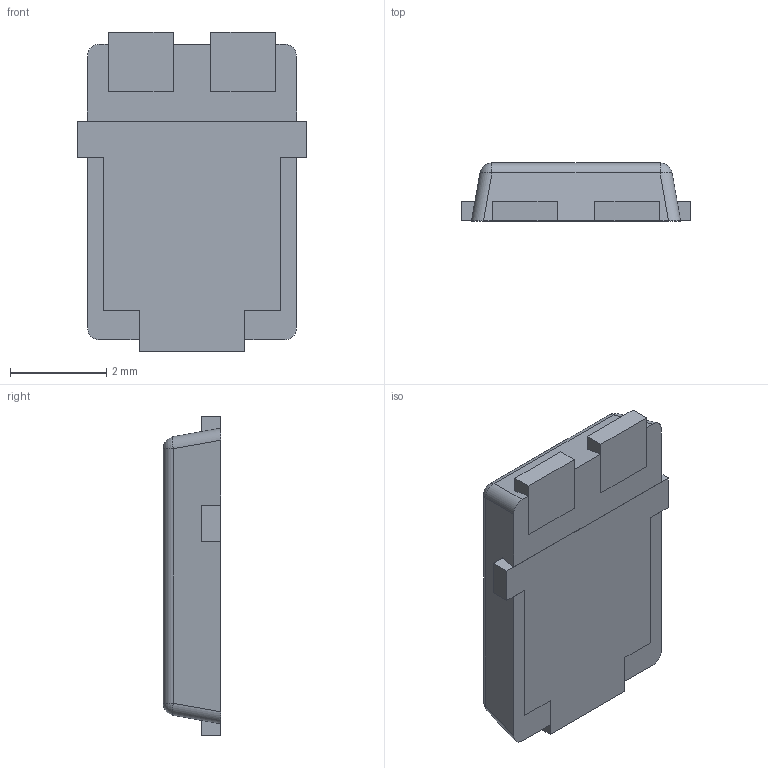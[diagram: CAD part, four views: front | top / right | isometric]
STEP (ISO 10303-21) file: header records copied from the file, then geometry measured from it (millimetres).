
FILE_DESCRIPTION (( 'STEP AP214' ), '1' );
FILE_NAME ('JEDEC TO-277A.STEP', '2017-11-10T04:12:34', ( '' ), ( '' ), 'SwSTEP 2.0', 'SolidWorks 2016', '' );
FILE_SCHEMA (( 'AUTOMOTIVE_DESIGN' ));
Length unit declared in the file: inch
Products named in the file (1): JEDEC TO-277A
Bounding box: 4.75 x 1.2 x 6.65 mm (x, y, z)
Volume: 30 mm3; surface area: 129.9 mm2
Topology: 4 solids, 4 shells, 64 faces, 160 edges, 100 vertices
Faces by surface type: plane 52, cylinder 8, sphere 4
Entity records: 2247 total; most frequent: CARTESIAN_POINT 333, ORIENTED_EDGE 312, DIRECTION 294, EDGE_CURVE 156, VECTOR 140, LINE 140, VERTEX_POINT 100, AXIS2_PLACEMENT_3D 77
